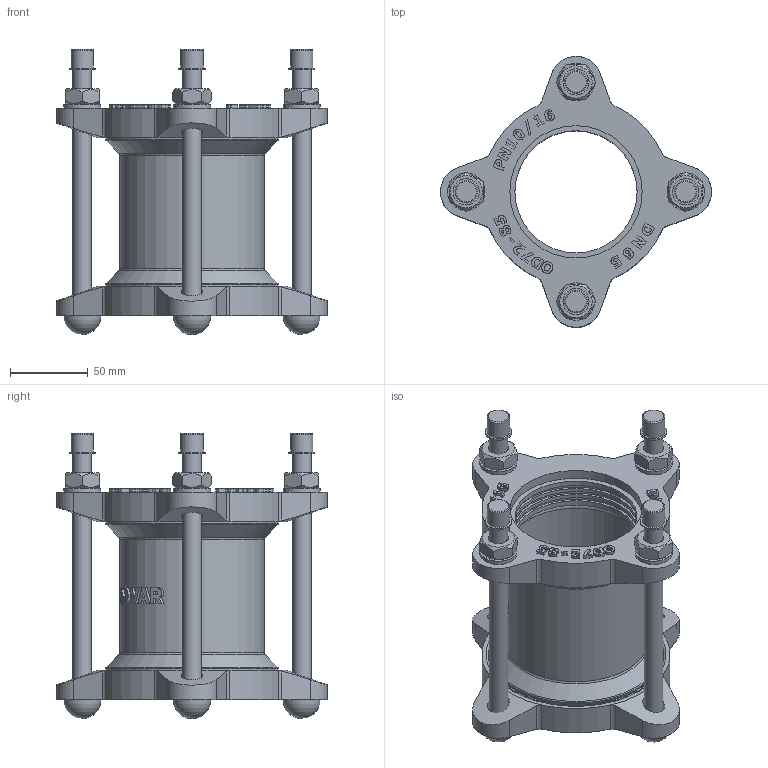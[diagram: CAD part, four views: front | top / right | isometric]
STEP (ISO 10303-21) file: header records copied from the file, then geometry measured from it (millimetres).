
FILE_DESCRIPTION(('STEP AP203'), '1');
FILE_NAME('Cîåäèíèòåëüíàÿ ìóôòà äëÿ æåñòêèõ òðóá', '', ('UNSPECIFIED'), ('UNSPECIFIED'), 'C3D Converter', 'C3D Toolkit', '');
FILE_SCHEMA(('CONFIG_CONTROL_DESIGN'));
Length unit declared in the file: millimetre
Assembly tree (21 placements, depth 2):
  (unnamed)
    (unnamed)
    (unnamed)  x4
    (unnamed)  x4
    (unnamed)  x4
    (unnamed)  x4
    (unnamed)
    (unnamed)
    (unnamed)  x2
Bounding box: 174 x 174 x 183.2 mm (x, y, z)
Volume: 574503.1 mm3; surface area: 228169.7 mm2
Topology: 25 solids, 25 shells, 735 faces, 1840 edges, 1208 vertices
Faces by surface type: extrusion 300, plane 270, cylinder 105, cone 34, torus 22, sphere 4
Full cylindrical faces by diameter (mm): 12 x12, 12.253 x1, 13 x4, 14 x8, 14.4 x4, 16.8 x4, 24 x4, 78.5 x8, 81.75 x6, 85 x3, 89 x2, 93 x3, 111 x2, 113 x4
Entity records: 28822 total; most frequent: CARTESIAN_POINT 10276, ORIENTED_EDGE 3148, DIRECTION 2040, EDGE_CURVE 1574, VERTEX_POINT 1078, VECTOR 1018, B_SPLINE_CURVE_WITH_KNOTS 964, EDGE_LOOP 768
